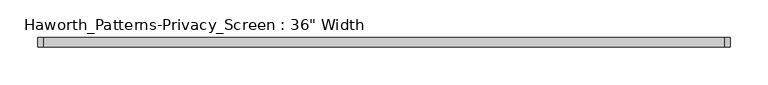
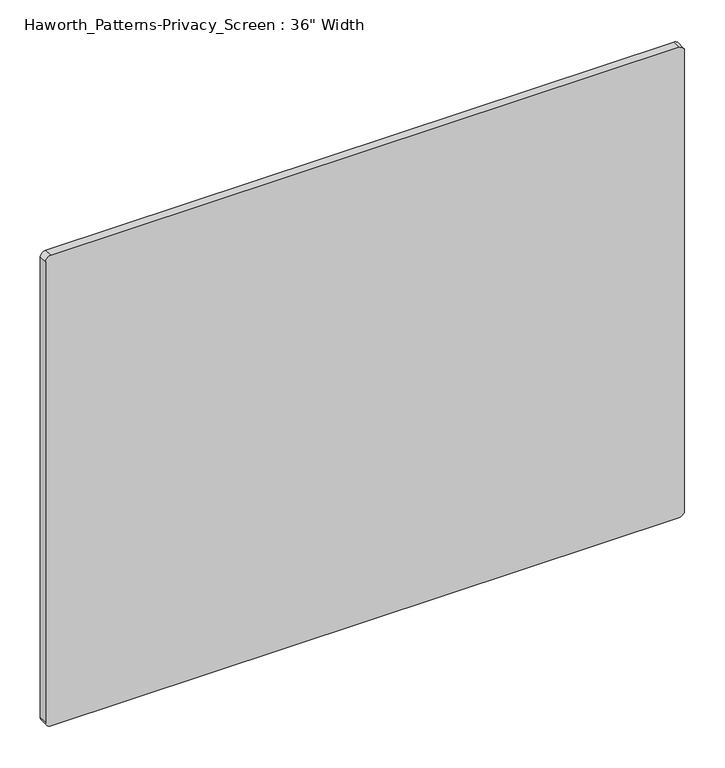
"""IFC4 building model written with IfcOpenShell, lengths in millimetres: furniture geometry."""

from ifc_helpers import new_model, si_unit, point, frame, frame_2d, origin, place, context, project, spatial, polyline, circle_curve, trimmed, segment, composite_curve, outline, extrude, source, transform, mapped, element, save


def furniture_59804fc4(model_context):
    return source(origin(), model_context, "Body", "SweptSolid", [
        extrude(outline(composite_curve([segment(polyline([(990.6, 449.2625), (990.6, -449.2625)]), True, "CONTINUOUS"), segment(trimmed(circle_curve(frame_2d((982.6625, -449.2625)), 7.9375), [point((990.6, -449.2625))], [point((982.6625, -457.2))], False, "CARTESIAN"), True, "CONTINUOUS"), segment(polyline([(982.6625, -457.2), (287.3375, -457.2)]), True, "CONTINUOUS"), segment(trimmed(circle_curve(frame_2d((287.3375, -449.2625)), 7.9375), [point((287.3375, -457.2))], [point((279.4, -449.2625))], False, "CARTESIAN"), True, "CONTINUOUS"), segment(polyline([(279.4, -449.2625), (279.4, 449.2625)]), True, "CONTINUOUS"), segment(trimmed(circle_curve(frame_2d((287.3375, 449.2625)), 7.9375), [point((279.4, 449.2625))], [point((287.3375, 457.2))], False, "CARTESIAN"), True, "CONTINUOUS"), segment(polyline([(287.3375, 457.2), (982.6625, 457.2)]), True, "CONTINUOUS"), segment(trimmed(circle_curve(frame_2d((982.6625, 449.2625)), 7.9375), [point((982.6625, 457.2))], [point((990.6, 449.2625))], False, "CARTESIAN"), True, "CONTINUOUS")], self_intersect=False)), frame((0.0, -6.35, 0.0), z_axis=(0.0, 1.0, 0.0), x_axis=(0.0, 0.0, 1.0)), (0.0, 0.0, 1.0), 12.7),
    ])


if __name__ == "__main__":
    model = new_model("IFC4")
    model_context = context("Model", 3, world=origin())
    ifc_project = project(units=[si_unit("LENGTHUNIT", "METRE", prefix="MILLI")], contexts=[model_context])
    site = spatial("IfcSite", under=ifc_project)
    building = spatial("IfcBuilding", under=site)
    placement = place(None, origin())
    furniture_shape = furniture_59804fc4(model_context)
    element("IfcFurniture", 1, ObjectType="Haworth_Patterns-Privacy_Screen : 36\" Width", at=placement, inside=building, context=model_context, shape_type="MappedRepresentation", body=[
        mapped(furniture_shape, transform((0.0, 0.0, 0.0), x_axis=(1.0, 0.0, 0.0), y_axis=(0.0, 1.0, 0.0), z_axis=(0.0, 0.0, 1.0))),
    ])
    save(model, "model.ifc")
